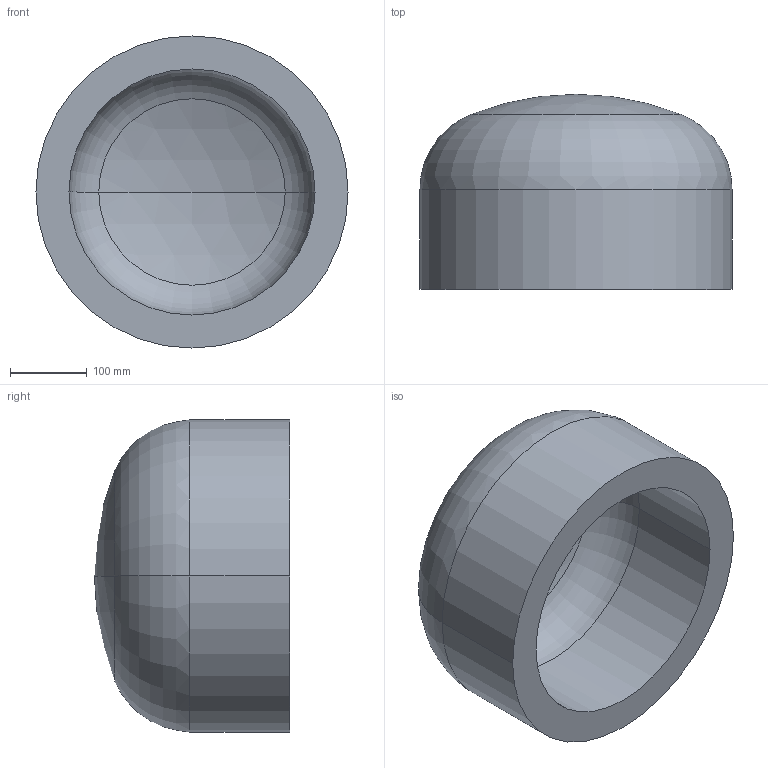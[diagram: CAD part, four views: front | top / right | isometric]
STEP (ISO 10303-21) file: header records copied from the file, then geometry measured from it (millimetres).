
FILE_DESCRIPTION (( 'STEP AP203' ), '1' );
FILE_NAME ('DIN 28013 Korbbogenform_-_Boden DIN 28013 - 406,4 x 130 - I - s=43.step', '2016-07-01T07:51:05', ( '' ), ( '' ), 'SwSTEP 2.0', 'SolidWorks 2013', '' );
FILE_SCHEMA (( 'CONFIG_CONTROL_DESIGN' ));
Length unit declared in the file: millimetre
Products named in the file (1): DIN 28013 Korbbogenform_-_Boden DIN 28013 - 406,4 x 130 - I - s=43
Bounding box: 406.4 x 254.02 x 406.4 mm (x, y, z)
Volume: 13149178.1 mm3; surface area: 664553.3 mm2
Topology: 1 solids, 1 shells, 13 faces, 24 edges, 14 vertices
Faces by surface type: torus 4, cylinder 4, sphere 4, plane 1
Entity records: 407 total; most frequent: DIRECTION 72, CARTESIAN_POINT 52, ORIENTED_EDGE 48, AXIS2_PLACEMENT_3D 34, EDGE_CURVE 24, CIRCLE 20, EDGE_LOOP 14, VERTEX_POINT 14
